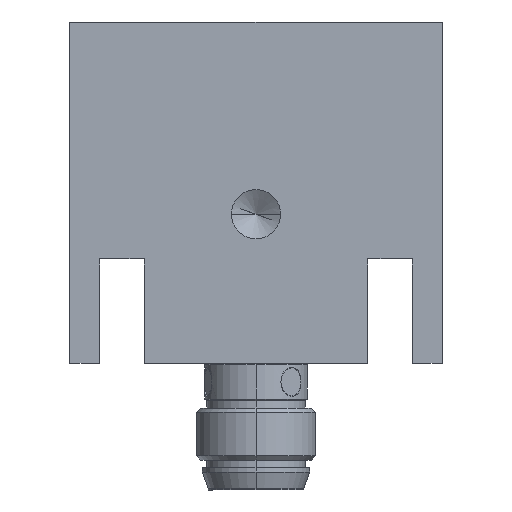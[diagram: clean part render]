
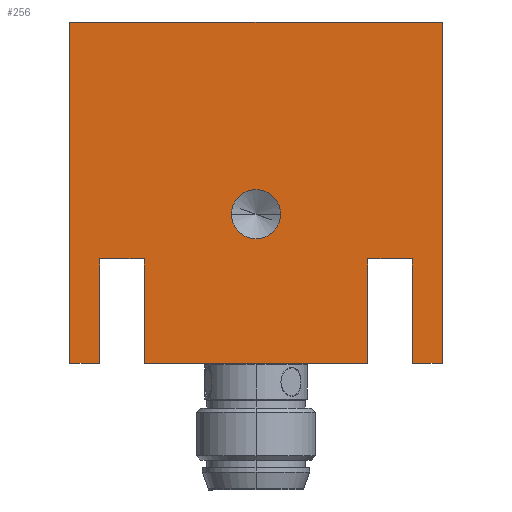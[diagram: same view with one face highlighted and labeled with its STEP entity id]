
A CAD part, left-side view. The second image highlights one B-rep face of the part: STEP entity #256.
In plain terms, the highlighted planar face has unit normal (-1, 0, 0).
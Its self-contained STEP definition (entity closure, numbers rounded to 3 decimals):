
#256=ADVANCED_FACE('0:1947',(#587,#588),#589,.T.);
#587=FACE_BOUND('',#1007,.T.);
#588=FACE_OUTER_BOUND('',#1008,.T.);
#589=PLANE('',#1009);
#1007=EDGE_LOOP('',(#1646,#1647));
#1008=EDGE_LOOP('',(#1648,#1649,#1650,#1651,#1652,#1653,#1654,#1655,#1656,#1657,#1658,#1659));
#1009=AXIS2_PLACEMENT_3D('',#1660,#1661,#1662);
#1646=ORIENTED_EDGE('',*,*,#2622,.T.);
#1647=ORIENTED_EDGE('',*,*,#2469,.T.);
#1648=ORIENTED_EDGE('',*,*,#2623,.T.);
#1649=ORIENTED_EDGE('',*,*,#2624,.F.);
#1650=ORIENTED_EDGE('',*,*,#2625,.F.);
#1651=ORIENTED_EDGE('',*,*,#2626,.F.);
#1652=ORIENTED_EDGE('',*,*,#2627,.F.);
#1653=ORIENTED_EDGE('',*,*,#2628,.F.);
#1654=ORIENTED_EDGE('',*,*,#2629,.F.);
#1655=ORIENTED_EDGE('',*,*,#2630,.F.);
#1656=ORIENTED_EDGE('',*,*,#2618,.F.);
#1657=ORIENTED_EDGE('',*,*,#2631,.F.);
#1658=ORIENTED_EDGE('',*,*,#2632,.F.);
#1659=ORIENTED_EDGE('',*,*,#2633,.T.);
#1660=CARTESIAN_POINT('',(-12.011,19.9,0.));
#1661=DIRECTION('',(-1.0,0.,0.));
#1662=DIRECTION('',(0.,0.,1.0));
#2469=EDGE_CURVE('',#2937,#2941,#2943,.T.);
#2618=EDGE_CURVE('0:2097',#3181,#3184,#3185,.T.);
#2622=EDGE_CURVE('0:2010',#2941,#2937,#3190,.T.);
#2623=EDGE_CURVE('0:2382',#3191,#3192,#3193,.T.);
#2624=EDGE_CURVE('0:2379',#3194,#3192,#3195,.T.);
#2625=EDGE_CURVE('0:2190',#3196,#3194,#3197,.F.);
#2626=EDGE_CURVE('0:2181',#3198,#3196,#3199,.T.);
#2627=EDGE_CURVE('0:2172',#3200,#3198,#3201,.T.);
#2628=EDGE_CURVE('0:2160',#3202,#3200,#3203,.T.);
#2629=EDGE_CURVE('0:2223',#3204,#3202,#3205,.F.);
#2630=EDGE_CURVE('0:2109',#3184,#3204,#3206,.T.);
#2631=EDGE_CURVE('0:2094',#3207,#3181,#3208,.T.);
#2632=EDGE_CURVE('0:2199',#3209,#3207,#3210,.F.);
#2633=EDGE_CURVE('0:2079',#3209,#3191,#3211,.F.);
#2937=VERTEX_POINT('',#3614);
#2941=VERTEX_POINT('',#3619);
#2943=CIRCLE('',#3622,1.65);
#3181=VERTEX_POINT('',#4334);
#3184=VERTEX_POINT('',#4338);
#3185=LINE('',#4339,#4340);
#3190=CIRCLE('',#4347,1.65);
#3191=VERTEX_POINT('',#4348);
#3192=VERTEX_POINT('',#4349);
#3193=LINE('',#4350,#4351);
#3194=VERTEX_POINT('',#4352);
#3195=LINE('',#4353,#4354);
#3196=VERTEX_POINT('',#4355);
#3197=LINE('',#4356,#4357);
#3198=VERTEX_POINT('',#4358);
#3199=LINE('',#4359,#4360);
#3200=VERTEX_POINT('',#4361);
#3201=LINE('',#4362,#4363);
#3202=VERTEX_POINT('',#4364);
#3203=LINE('',#4365,#4366);
#3204=VERTEX_POINT('',#4367);
#3205=LINE('',#4368,#4369);
#3206=LINE('',#4370,#4371);
#3207=VERTEX_POINT('',#4372);
#3208=LINE('',#4373,#4374);
#3209=VERTEX_POINT('',#4375);
#3210=LINE('',#4376,#4377);
#3211=LINE('',#4378,#4379);
#3614=CARTESIAN_POINT('',(-12.011,10.0,-1.65));
#3619=CARTESIAN_POINT('',(-12.011,10.0,1.65));
#3622=AXIS2_PLACEMENT_3D('',#4898,#4899,#4900);
#4334=CARTESIAN_POINT('',(-12.011,7.,10.5));
#4338=CARTESIAN_POINT('',(-12.011,7.,7.502));
#4339=CARTESIAN_POINT('',(-12.011,7.,-6.));
#4340=VECTOR('',#5093,0.001);
#4347=AXIS2_PLACEMENT_3D('',#5096,#5097,#5098);
#4348=CARTESIAN_POINT('',(-12.011,22.9,12.5));
#4349=CARTESIAN_POINT('',(-12.011,22.9,-12.5));
#4350=CARTESIAN_POINT('',(-12.011,22.9,12.5));
#4351=VECTOR('',#5099,1.0);
#4352=CARTESIAN_POINT('',(-12.011,0.,-12.5));
#4353=CARTESIAN_POINT('',(-12.011,19.9,-12.5));
#4354=VECTOR('',#5100,1.0);
#4355=CARTESIAN_POINT('',(-12.011,0.,-10.5));
#4356=CARTESIAN_POINT('',(-12.011,0.,-6.));
#4357=VECTOR('',#5101,0.001);
#4358=CARTESIAN_POINT('',(-12.011,7.,-10.5));
#4359=CARTESIAN_POINT('',(-12.011,6.4,-10.5));
#4360=VECTOR('',#5102,0.001);
#4361=CARTESIAN_POINT('',(-12.011,7.,-7.498));
#4362=CARTESIAN_POINT('',(-12.011,7.,-6.));
#4363=VECTOR('',#5103,0.001);
#4364=CARTESIAN_POINT('',(-12.011,0.,-7.498));
#4365=CARTESIAN_POINT('',(-12.011,6.4,-7.498));
#4366=VECTOR('',#5104,0.001);
#4367=CARTESIAN_POINT('',(-12.011,0.,7.502));
#4368=CARTESIAN_POINT('',(-12.011,0.,-6.));
#4369=VECTOR('',#5105,0.001);
#4370=CARTESIAN_POINT('',(-12.011,6.4,7.502));
#4371=VECTOR('',#5106,0.001);
#4372=CARTESIAN_POINT('',(-12.011,0.,10.5));
#4373=CARTESIAN_POINT('',(-12.011,6.4,10.5));
#4374=VECTOR('',#5107,0.001);
#4375=CARTESIAN_POINT('',(-12.011,0.,12.5));
#4376=CARTESIAN_POINT('',(-12.011,0.,-6.));
#4377=VECTOR('',#5108,0.001);
#4378=CARTESIAN_POINT('',(-12.011,12.8,12.5));
#4379=VECTOR('',#5109,0.001);
#4898=CARTESIAN_POINT('',(-12.011,10.0,0.));
#4899=DIRECTION('',(1.0,0.,0.));
#4900=DIRECTION('',(0.,0.,-1.0));
#5093=DIRECTION('',(0.,0.,-1.0));
#5096=CARTESIAN_POINT('',(-12.011,10.0,0.));
#5097=DIRECTION('',(1.0,0.,0.));
#5098=DIRECTION('',(0.,0.,-1.0));
#5099=DIRECTION('',(0.,0.,-1.0));
#5100=DIRECTION('',(0.,1.0,0.));
#5101=DIRECTION('',(0.,0.,1.0));
#5102=DIRECTION('',(0.,-1.0,0.));
#5103=DIRECTION('',(0.,0.,-1.0));
#5104=DIRECTION('',(0.,1.0,0.));
#5105=DIRECTION('',(0.,0.,1.0));
#5106=DIRECTION('',(0.,-1.0,0.));
#5107=DIRECTION('',(0.,1.0,0.));
#5108=DIRECTION('',(0.,0.,1.0));
#5109=DIRECTION('',(0.,-1.0,0.));
